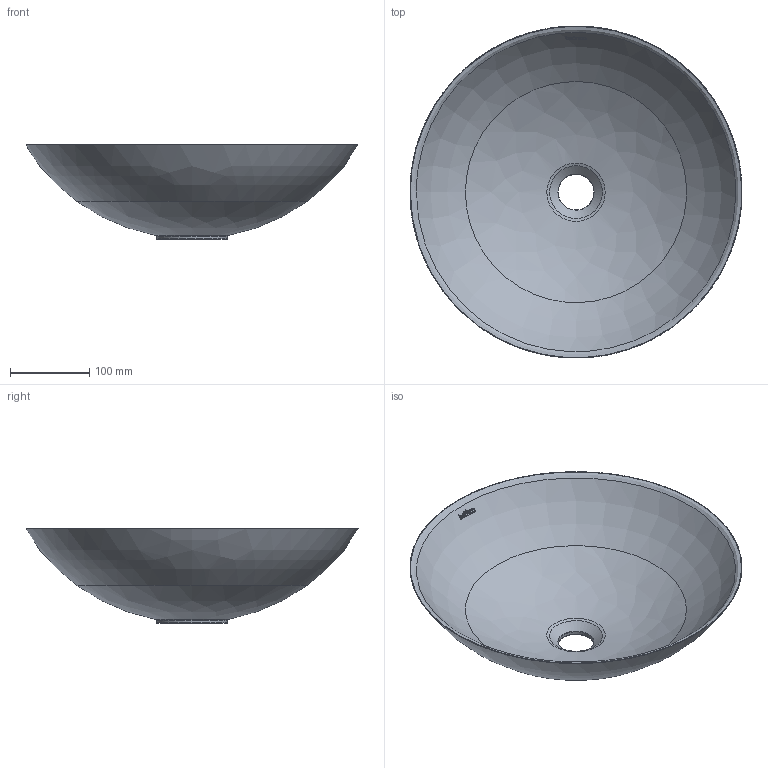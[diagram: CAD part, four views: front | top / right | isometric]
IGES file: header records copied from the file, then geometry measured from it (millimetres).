
Global section: file name: D:\Renovando Conceptos\Trabajos Varios\BathCo\47 Biblioteca Lavabos 3D\6002 Piamonte\6002_Piamonte.igs; native system: Rhinoceros ( Feb 26 2015 ); preprocessor: Trout Lake IGES 012 Feb 26 2015; date: 200506.070407; units: millimetre
Bounding box: 419.63 x 419.64 x 120 mm (x, y, z)
Surface area: 357680.8 mm2 (no closed solid volume)
Topology: 0 solids, 0 shells, 74 faces, 477 edges, 458 vertices
Faces by surface type: bspline 74
